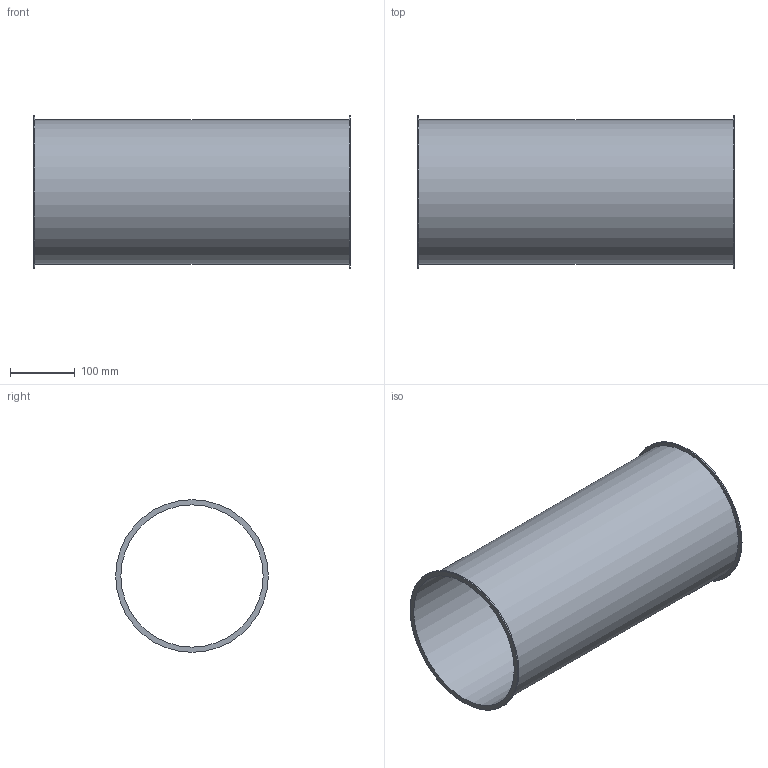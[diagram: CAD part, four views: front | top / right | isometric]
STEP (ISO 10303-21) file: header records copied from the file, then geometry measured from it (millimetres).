
FILE_DESCRIPTION((''),'2;1');
FILE_NAME('U:\Wolfgang\Marcel-3D\fertig\Kapitel 1\2221003.stp','2010-05-31T11:31:21',('TK2'),(''),'Autodesk Inventor 2010','Autodesk Inventor 2010','');
FILE_SCHEMA(('AUTOMOTIVE_DESIGN { 1 0 10303 214 1 1 1 1 }'));
Length unit declared in the file: millimetre
Products named in the file (1): 2221003
Bounding box: 488 x 235 x 235 mm (x, y, z)
Volume: 694895.2 mm3; surface area: 697823.1 mm2
Topology: 1 solids, 1 shells, 8 faces, 12 edges, 8 vertices
Faces by surface type: cylinder 4, plane 4
Full cylindrical faces by diameter (mm): 219 x1, 223 x1, 235 x2
Entity records: 194 total; most frequent: DIRECTION 34, CARTESIAN_POINT 25, AXIS2_PLACEMENT_3D 17, ORIENTED_EDGE 16, EDGE_LOOP 16, VERTEX_POINT 8, CIRCLE 8, EDGE_CURVE 8
